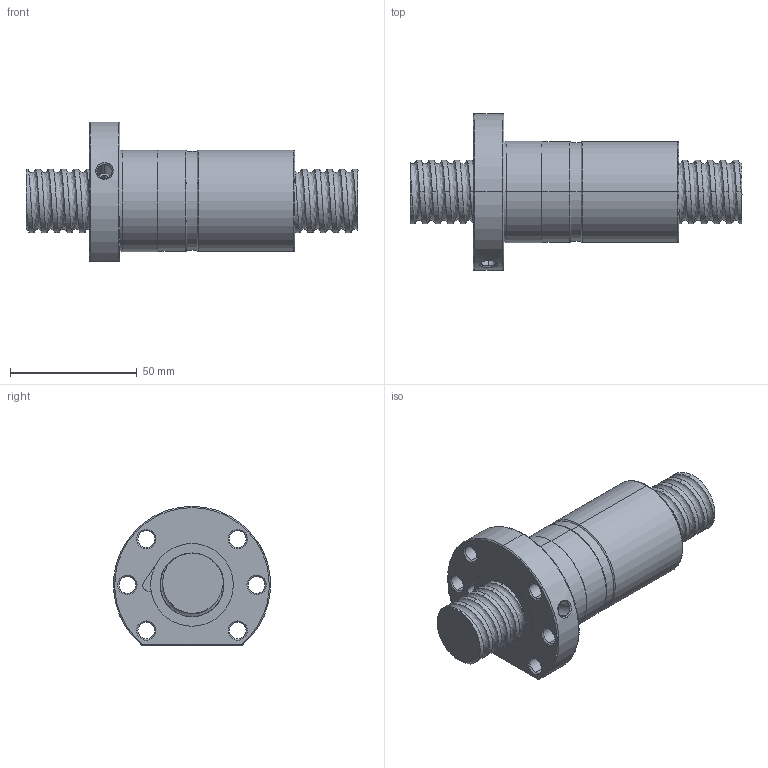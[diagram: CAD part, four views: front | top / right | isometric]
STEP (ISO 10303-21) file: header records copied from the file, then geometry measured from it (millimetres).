
FILE_DESCRIPTION (( 'STEP AP214' ), '1' );
FILE_NAME ('FDDC02505T4-B-B.STEP', '2010-07-06T02:57:39', ( 'XPAUTO' ), ( 'XPAUTO' ), 'SwSTEP 2.0', 'SolidWorks 2007', '' );
FILE_SCHEMA (( 'AUTOMOTIVE_DESIGN' ));
Length unit declared in the file: millimetre
Products named in the file (3): FDDC02505T4-B-B.sldasm-Part-2_預設; FDDC02505T4-B-B.sldasm-Part-1_預設; FDDC02505T4-B-B
Assembly tree (2 placements, depth 2):
  FDDC02505T4-B-B
    FDDC02505T4-B-B.sldasm-Part-1_預設
    FDDC02505T4-B-B.sldasm-Part-2_預設
Bounding box: 131 x 61.86 x 55 mm (x, y, z)
Volume: 134792.9 mm3; surface area: 37021.4 mm2
Topology: 2 solids, 2 shells, 154 faces, 391 edges, 246 vertices
Faces by surface type: cylinder 96, cone 24, plane 20, torus 9, bspline 5
Entity records: 31981 total; most frequent: CARTESIAN_POINT 28342, ORIENTED_EDGE 782, DIRECTION 685, EDGE_CURVE 391, AXIS2_PLACEMENT_3D 276, VERTEX_POINT 246, EDGE_LOOP 175, FACE_OUTER_BOUND 154
